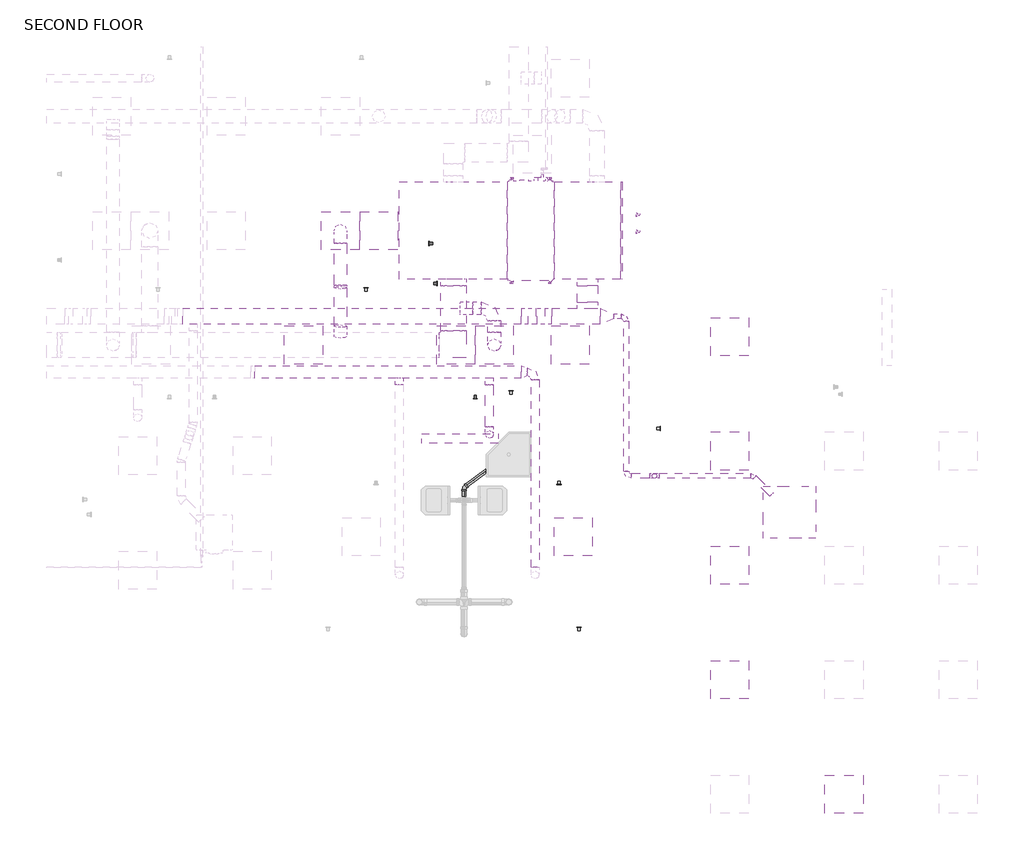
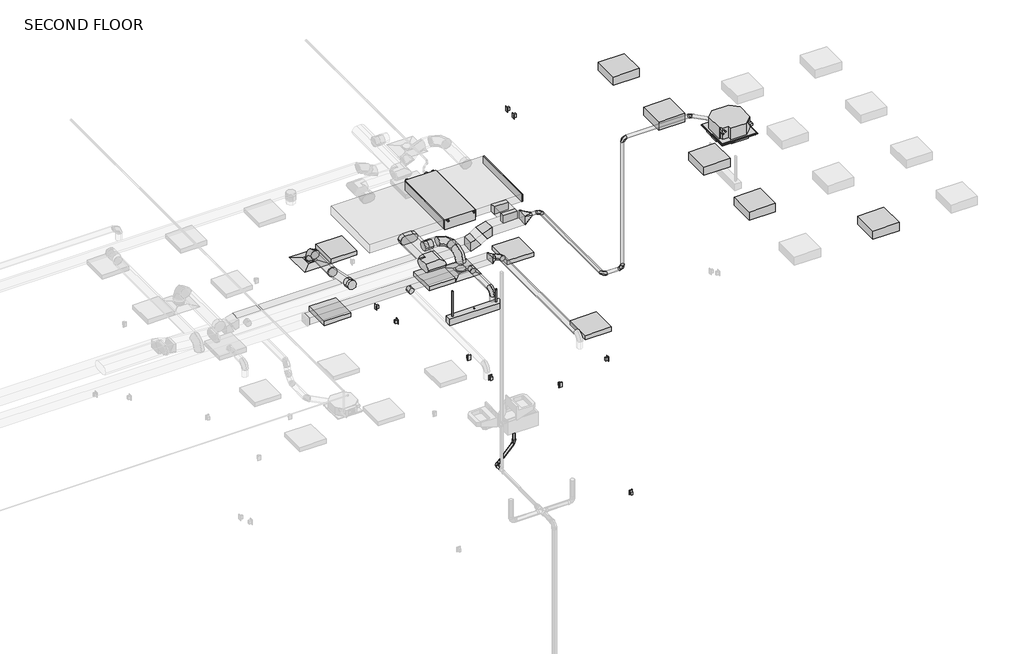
# One storey, part 5 of 12: 24 duct fittings, 22 duct segments, 11 light fixtures, 6 proxies, 6 switching devices, 3 pipe segments, 2 air terminals, 2 pipe fittings.
"""IFC4 building model written with IfcOpenShell, lengths in millimetres."""

from ifc_helpers import new_model, si_unit, point, frame, frame_2d, origin, place, context, project, spatial, polyline, circle_curve, trimmed, segment, composite_curve, outline, extrude, transform, mapped, element, save
from components import air_terminal_e9020785, mechanical_equipment_8a2286fb, mechanical_equipment_de7c3da1, duplex_receptacle_countertop_10251bba, oval_elbow_mitered_standard_57953c47, oval_tap_straight_standard_ffc37641, rectangular_elbow_radius_1_5_w_e6937f48, rectangular_endcap_standard_127bff01, rectangular_takeoff_standard_68f80ab3, rectangular_takeoff_standard_5ed12392, rectangular_to_round_transition_angle_45_degree_4c5d7f98, rectangular_to_round_transition_angle_45_degree_93651def, round_elbow_1_d_a253342a, round_elbow_1_d_c80420c1, round_elbow_1_d_aff85894, round_elbow_1_d_8c5a454f, round_elbow_1_d_b51427ba, round_takeoff_standard_8f6f248b, round_takeoff_standard_275da0e0, round_takeoff_standard_7fe2b2d5, suspended_fluorescent_strip_non_hosted_strip_light_1x4_120v_a5e6163e, troffer_corner_insert_2x2_3lamp_e67c7f8f, troffer_corner_insert_2x2_3lamp_high_profile_29e3a813, bend_pvc_sch_40_dwv_standard_1eaeee76, bend_pvc_sch_40_dwv_standard_be5bc2fd

model = new_model("IFC4")

# Units and contexts
model_context = context("Model", 3, world=origin())
ifc_project = project(units=[si_unit("LENGTHUNIT", "METRE", prefix="MILLI")], contexts=[model_context])

# Site, building, storey
site = spatial("IfcSite", under=ifc_project)
building = spatial("IfcBuilding", under=site)
storey = spatial("IfcBuildingStorey", under=building, Name="SECOND FLOOR", Elevation=34544.0)

# Air terminals
placement = place(None, origin())
air_terminal_shape = air_terminal_e9020785(model_context)
element("IfcAirTerminal", 1, ObjectType="Supply Diffuser - Rectangular Face Round Neck - Hosted : 24\"x24\" Face 8\" Neck - Hosted", at=placement, inside=storey, context=model_context, shape_type="MappedRepresentation", body=[
    mapped(air_terminal_shape, transform((8717.1232893, -751.4804995, 37287.2), x_axis=(-1.0, 0.0, 0.0), y_axis=(0.0, 1.0, 0.0), z_axis=(0.0, 0.0, -1.0))),
])
element("IfcAirTerminal", 2, ObjectType="Supply Diffuser - Rectangular Face Round Neck - Hosted : 24\"x24\" Face 8\" Neck - Hosted", at=placement, inside=storey, context=model_context, shape_type="MappedRepresentation", body=[
    mapped(air_terminal_shape, transform((11173.7795393, -2580.2804995, 37287.2), x_axis=(-1.0, 0.0, 0.0), y_axis=(0.0, 1.0, 0.0), z_axis=(0.0, 0.0, -1.0))),
])

# Proxies
mechanical_equipment_shape = mechanical_equipment_8a2286fb(model_context)
element("IfcBuildingElementProxy", 3, Name="PEFY-P-NMAU-E_Medium_Static_Ducted : PEFY-P54NMAU-E", ObjectType="PEFY-P-NMAU-E_Medium_Static_Ducted : PEFY-P54NMAU-E", at=placement, inside=storey, context=model_context, shape_type="MappedRepresentation", body=[
    mapped(mechanical_equipment_shape, transform((11814.3357893, -741.4682565, 37566.6), x_axis=(0.0, 1.0, 0.0), y_axis=(-1.0, 0.0, 0.0), z_axis=(0.0, 0.0, 1.0))),
])
mechanical_equipment_2_shape = mechanical_equipment_de7c3da1(model_context)
element("IfcBuildingElementProxy", 4, Name="PLFY-P-NBMU-E_4-way_33x33 : PLFY-P36NBMU-E", ObjectType="PLFY-P-NBMU-E_4-way_33x33 : PLFY-P36NBMU-E", at=placement, inside=storey, context=model_context, shape_type="MappedRepresentation", body=[
    mapped(mechanical_equipment_2_shape, transform((15640.3157152, -5255.0503148, 40741.6), x_axis=(1.0, 0.0, 0.0), y_axis=(0.0, 1.0, 0.0), z_axis=(0.0, 0.0, 1.0))),
])
duplex_receptacle_countertop_shape = duplex_receptacle_countertop_10251bba(model_context)
element("IfcBuildingElementProxy", 5, Name="Duplex Receptacle : GFCI", ObjectType="Duplex Receptacle : GFCI", at=placement, inside=storey, context=model_context, shape_type="MappedRepresentation", body=[
    mapped(duplex_receptacle_countertop_shape, transform((12532.6032078, -7095.1304995, 34086.8), x_axis=(-1.0, 0.0, 0.0), y_axis=(0.0, 0.0, 1.0), z_axis=(0.0, 1.0, 0.0))),
])
element("IfcBuildingElementProxy", 6, Name="Duplex Receptacle : Standard", ObjectType="Duplex Receptacle : Standard", at=placement, inside=storey, context=model_context, shape_type="MappedRepresentation", body=[
    mapped(duplex_receptacle_countertop_shape, transform((9126.9080833, -1665.8804995, 35001.2), x_axis=(-1.0, 0.0, 0.0), y_axis=(0.0, 0.0, 1.0), z_axis=(0.0, 1.0, 0.0))),
])
element("IfcBuildingElementProxy", 7, Name="Duplex Receptacle : Standard", ObjectType="Duplex Receptacle : Standard", at=placement, inside=storey, context=model_context, shape_type="MappedRepresentation", body=[
    mapped(duplex_receptacle_countertop_shape, transform((11443.1486524, -3313.7054995, 35001.2), x_axis=(-1.0, 0.0, 0.0), y_axis=(0.0, 0.0, 1.0), z_axis=(0.0, 1.0, 0.0))),
])
element("IfcBuildingElementProxy", 8, Name="Duplex Receptacle : Standard", ObjectType="Duplex Receptacle : Standard", at=placement, inside=storey, context=model_context, shape_type="MappedRepresentation", body=[
    mapped(duplex_receptacle_countertop_shape, transform((13828.0795393, -3914.6809044, 35001.2), x_axis=(0.0, 1.0, 0.0), y_axis=(0.0, 0.0, 1.0), z_axis=(1.0, 0.0, 0.0))),
])

# Duct fittings
oval_elbow_mitered_standard_shape = oval_elbow_mitered_standard_57953c47(model_context)
element("IfcDuctFitting", 9, ObjectType="Oval Elbow - Mitered : Standard", at=placement, inside=storey, context=model_context, shape_type="MappedRepresentation", body=[
    mapped(oval_elbow_mitered_standard_shape, transform((10522.5076643, -2580.2804995, 37711.1892428), x_axis=(1.0, 0.0, 0.0), y_axis=(0.0, 1.0, 0.0), z_axis=(0.0, 0.0, 1.0))),
])
oval_tap_straight_standard_shape = oval_tap_straight_standard_ffc37641(model_context)
element("IfcDuctFitting", 10, ObjectType="Oval Tap - Straight : Standard", at=placement, inside=storey, context=model_context, shape_type="MappedRepresentation", body=[
    mapped(oval_tap_straight_standard_shape, transform((10522.5076643, -1529.3554995, 37711.1892428), x_axis=(0.0, -1.0, 0.0), y_axis=(-1.0, 0.0, 0.0), z_axis=(0.0, 0.0, -1.0))),
])
rectangular_elbow_radius_1_5_w_shape = rectangular_elbow_radius_1_5_w_e6937f48(model_context)
element("IfcDuctFitting", 11, ObjectType="Rectangular Elbow - Radius : 1.5 W", at=placement, inside=storey, context=model_context, shape_type="MappedRepresentation", body=[
    mapped(rectangular_elbow_radius_1_5_w_shape, transform((11698.9780581, -2123.0804995, 37515.8), x_axis=(1.0, 0.0, 0.0), y_axis=(0.0, 0.0, 1.0), z_axis=(0.0, -1.0, 0.0))),
])
element("IfcDuctFitting", 12, ObjectType="Rectangular Elbow - Radius : 1.5 W", at=placement, inside=storey, context=model_context, shape_type="MappedRepresentation", body=[
    mapped(rectangular_elbow_radius_1_5_w_shape, transform((11999.3800654, -2123.0804995, 37726.14375), x_axis=(0.8191520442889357, 0.0, 0.5735764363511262), y_axis=(0.5735764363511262, 0.0, -0.8191520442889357), z_axis=(0.0, 1.0, 0.0))),
])
rectangular_endcap_standard_shape = rectangular_endcap_standard_127bff01(model_context)
element("IfcDuctFitting", 13, ObjectType="Rectangular Endcap : Standard", at=placement, inside=storey, context=model_context, shape_type="MappedRepresentation", body=[
    mapped(rectangular_endcap_standard_shape, transform((13198.6357893, -751.4804995, 37726.14375), x_axis=(1.0, 0.0, 0.0), y_axis=(0.0, 1.0, 0.0), z_axis=(0.0, 0.0, 1.0))),
])
rectangular_takeoff_standard_shape = rectangular_takeoff_standard_68f80ab3(model_context)
element("IfcDuctFitting", 14, ObjectType="Rectangular Takeoff : Standard", at=placement, inside=storey, context=model_context, shape_type="MappedRepresentation", body=[
    mapped(rectangular_takeoff_standard_shape, transform((12665.2357893, -1996.0804995, 37726.14375), x_axis=(0.0, 1.0, 0.0), y_axis=(1.0, 0.0, 0.0), z_axis=(0.0, 0.0, -1.0))),
])
rectangular_takeoff_standard_2_shape = rectangular_takeoff_standard_5ed12392(model_context)
element("IfcDuctFitting", 15, ObjectType="Rectangular Takeoff : Standard", at=placement, inside=storey, context=model_context, shape_type="MappedRepresentation", body=[
    mapped(rectangular_takeoff_standard_2_shape, transform((12665.2357893, -1529.3554995, 37726.14375), x_axis=(0.0, -1.0, 0.0), y_axis=(-1.0, 0.0, 0.0), z_axis=(0.0, 0.0, -1.0))),
])
rectangular_to_round_transition_angle_45_degree_shape = rectangular_to_round_transition_angle_45_degree_4c5d7f98(model_context)
element("IfcDuctFitting", 16, ObjectType="Rectangular to Round Transition - Angle : 45 Degree", at=placement, inside=storey, context=model_context, shape_type="MappedRepresentation", body=[
    mapped(rectangular_to_round_transition_angle_45_degree_shape, transform((11608.8480026, -3010.2706668, 37693.6), x_axis=(1.0, 0.0, 0.0), y_axis=(0.0, 1.0, 0.0), z_axis=(0.0, 0.0, 1.0))),
])
rectangular_to_round_transition_angle_45_degree_2_shape = rectangular_to_round_transition_angle_45_degree_93651def(model_context)
element("IfcDuctFitting", 17, ObjectType="Rectangular to Round Transition - Angle : 45 Degree", at=placement, inside=storey, context=model_context, shape_type="MappedRepresentation", body=[
    mapped(rectangular_to_round_transition_angle_45_degree_2_shape, transform((12871.0102837, -2123.0804995, 37726.14375), x_axis=(1.0, 0.0, 0.0), y_axis=(0.0, 1.0, 0.0), z_axis=(0.0, 0.0, 1.0))),
])
round_elbow_1_d_shape = round_elbow_1_d_a253342a(model_context)
element("IfcDuctFitting", 18, ObjectType="Round Elbow : 1 D", at=placement, inside=storey, context=model_context, shape_type="MappedRepresentation", body=[
    mapped(round_elbow_1_d_shape, transform((11173.7795393, -2580.2804995, 37712.65), x_axis=(0.0, 0.0, 1.0), y_axis=(0.0, 1.0, 0.0), z_axis=(-1.0, 0.0, 0.0))),
])
element("IfcDuctFitting", 19, ObjectType="Round Elbow : 1 D", at=placement, inside=storey, context=model_context, shape_type="MappedRepresentation", body=[
    mapped(round_elbow_1_d_shape, transform((8717.1232893, -751.4804995, 37547.2858674), x_axis=(0.0, 0.0, 1.0), y_axis=(0.0, -1.0, 0.0), z_axis=(1.0, 0.0, 0.0))),
])
element("IfcDuctFitting", 20, ObjectType="Round Elbow : 1 D", at=placement, inside=storey, context=model_context, shape_type="MappedRepresentation", body=[
    mapped(round_elbow_1_d_shape, transform((11173.7795393, -1991.3179995, 37712.65), x_axis=(0.0, 1.0, 0.0), y_axis=(-1.0, 0.0, 0.0), z_axis=(0.0, 0.0, 1.0))),
])
round_elbow_1_d_2_shape = round_elbow_1_d_c80420c1(model_context)
element("IfcDuctFitting", 21, ObjectType="Round Elbow : 1 D", at=placement, inside=storey, context=model_context, shape_type="MappedRepresentation", body=[
    mapped(round_elbow_1_d_2_shape, transform((11827.8295393, -3010.2706668, 37693.6), x_axis=(0.0, 1.0, 0.0), y_axis=(-1.0, 0.0, 0.0), z_axis=(0.0, 0.0, 1.0))),
])
element("IfcDuctFitting", 22, ObjectType="Round Elbow : 1 D", at=placement, inside=storey, context=model_context, shape_type="MappedRepresentation", body=[
    mapped(round_elbow_1_d_2_shape, transform((11097.8695952, -4010.3447967, 37693.6), x_axis=(0.0, 0.0, 1.0), y_axis=(0.0, 1.0, 0.0), z_axis=(-1.0, 0.0, 0.0))),
])
round_elbow_1_d_3_shape = round_elbow_1_d_aff85894(model_context)
element("IfcDuctFitting", 23, ObjectType="Round Elbow : 1 D", at=placement, inside=storey, context=model_context, shape_type="MappedRepresentation", body=[
    mapped(round_elbow_1_d_3_shape, transform((15311.918853, -4674.1149245, 40919.3007812), x_axis=(-0.707106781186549, 0.707106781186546, 0.0), y_axis=(-0.707106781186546, -0.707106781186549, 0.0), z_axis=(0.0, 0.0, 1.0))),
])
round_elbow_1_d_4_shape = round_elbow_1_d_8c5a454f(model_context)
element("IfcDuctFitting", 24, ObjectType="Round Elbow : 1 D", at=placement, inside=storey, context=model_context, shape_type="MappedRepresentation", body=[
    mapped(round_elbow_1_d_4_shape, transform((13284.3268912, -2123.0804995, 37726.14375), x_axis=(0.0, 1.0, 0.0), y_axis=(-1.0, 0.0, 0.0), z_axis=(0.0, 0.0, 1.0))),
])
element("IfcDuctFitting", 25, ObjectType="Round Elbow : 1 D", at=placement, inside=storey, context=model_context, shape_type="MappedRepresentation", body=[
    mapped(round_elbow_1_d_4_shape, transform((13736.710796, -4674.1149245, 40919.3007812), x_axis=(-1.0, 0.0, 0.0), y_axis=(0.0, 0.0, -1.0), z_axis=(0.0, -1.0, 0.0))),
])
element("IfcDuctFitting", 26, ObjectType="Round Elbow : 1 D", at=placement, inside=storey, context=model_context, shape_type="MappedRepresentation", body=[
    mapped(round_elbow_1_d_4_shape, transform((13736.710796, -4674.1149245, 37726.14375), x_axis=(0.0, 0.0, -1.0), y_axis=(-1.0, 0.0, 0.0), z_axis=(0.0, 1.0, 0.0))),
])
element("IfcDuctFitting", 27, ObjectType="Round Elbow : 1 D", at=placement, inside=storey, context=model_context, shape_type="MappedRepresentation", body=[
    mapped(round_elbow_1_d_4_shape, transform((13284.3268912, -4674.1149245, 37726.14375), x_axis=(0.0, -1.0, 0.0), y_axis=(1.0, 0.0, 0.0), z_axis=(0.0, 0.0, 1.0))),
])
round_elbow_1_d_5_shape = round_elbow_1_d_b51427ba(model_context)
element("IfcDuctFitting", 28, ObjectType="Round Elbow : 1 D", at=placement, inside=storey, context=model_context, shape_type="MappedRepresentation", body=[
    mapped(round_elbow_1_d_5_shape, transform((8717.1232893, -1644.9208818, 37547.2858674), x_axis=(0.0, -1.0, 0.0), y_axis=(0.0, 0.0, 1.0), z_axis=(-1.0, 0.0, 0.0))),
])
round_takeoff_standard_shape = round_takeoff_standard_8f6f248b(model_context)
element("IfcDuctFitting", 29, ObjectType="Round Takeoff : Standard", at=placement, inside=storey, context=model_context, shape_type="MappedRepresentation", body=[
    mapped(round_takeoff_standard_shape, transform((8717.1232893, -2378.315039, 37696.8596758), x_axis=(0.0, 0.9798298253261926, -0.1998337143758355), y_axis=(-1.0, 0.0, 0.0), z_axis=(0.0, 0.1998337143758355, 0.9798298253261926))),
])
round_takeoff_standard_2_shape = round_takeoff_standard_275da0e0(model_context)
element("IfcDuctFitting", 30, ObjectType="Round Takeoff : Standard", at=placement, inside=storey, context=model_context, shape_type="MappedRepresentation", body=[
    mapped(round_takeoff_standard_2_shape, transform((10725.7076643, -1991.3179995, 37712.65), x_axis=(1.0, 0.0, 0.0), y_axis=(0.0, -1.0, 0.0), z_axis=(0.0, 0.0, -1.0))),
])
round_takeoff_standard_3_shape = round_takeoff_standard_7fe2b2d5(model_context)
element("IfcDuctFitting", 31, ObjectType="Round Takeoff : Standard", at=placement, inside=storey, context=model_context, shape_type="MappedRepresentation", body=[
    mapped(round_takeoff_standard_3_shape, transform((9659.3045393, -3111.8706668, 37693.6), x_axis=(0.0, -1.0, 0.0), y_axis=(-1.0, 0.0, 0.0), z_axis=(0.0, 0.0, -1.0))),
])
element("IfcDuctFitting", 32, ObjectType="Round Takeoff : Standard", at=placement, inside=storey, context=model_context, shape_type="MappedRepresentation", body=[
    mapped(round_takeoff_standard_3_shape, transform((11097.8695952, -3111.8706668, 37693.6), x_axis=(0.0, -1.0, 0.0), y_axis=(-1.0, 0.0, 0.0), z_axis=(0.0, 0.0, -1.0))),
])

# Duct segments
element("IfcDuctSegment", 33, ObjectType="Mitered Elbows / Taps", at=placement, inside=storey, context=model_context, shape_type="SweptSolid", body=[
    extrude(outline(composite_curve([segment(trimmed(circle_curve(frame_2d((37711.1892428, 10420.9076643)), 101.6), [point((37812.7892428, 10420.9076643))], [point((37711.1892428, 10319.3076643))], False, "CARTESIAN"), True, "CONTINUOUS"), segment(trimmed(circle_curve(frame_2d((37711.1892428, 10420.9076643)), 101.6), [point((37711.1892428, 10319.3076643))], [point((37609.5892428, 10420.9076643))], False, "CARTESIAN"), True, "CONTINUOUS"), segment(polyline([(37609.5892428, 10420.9076643), (37609.5892428, 10624.1076643)]), True, "CONTINUOUS"), segment(trimmed(circle_curve(frame_2d((37711.1892428, 10624.1076643)), 101.6), [point((37609.5892428, 10624.1076643))], [point((37711.1892428, 10725.7076643))], False, "CARTESIAN"), True, "CONTINUOUS"), segment(trimmed(circle_curve(frame_2d((37711.1892428, 10624.1076643)), 101.6), [point((37711.1892428, 10725.7076643))], [point((37812.7892428, 10624.1076643))], False, "CARTESIAN"), True, "CONTINUOUS"), segment(polyline([(37812.7892428, 10624.1076643), (37812.7892428, 10420.9076643)]), True, "CONTINUOUS")], self_intersect=False)), frame((0.0, -2351.6804995, 0.0), z_axis=(0.0, 1.0, 0.0), x_axis=(0.0, 0.0, 1.0)), (0.0, 0.0, 1.0), 720.725),
])
element("IfcDuctSegment", 34, ObjectType="Mitered Elbows / Taps", at=placement, inside=storey, context=model_context, shape_type="SweptSolid", body=[
    extrude(outline(polyline([(7344.8230026, -3111.8706668), (7344.8230026, -2908.6706668), (11608.8480026, -2908.6706668), (11608.8480026, -3111.8706668), (7344.8230026, -3111.8706668)])), frame((0.0, 0.0, 37617.4), z_axis=(0.0, 0.0, 1.0), x_axis=(1.0, 0.0, 0.0)), (0.0, 0.0, 1.0), 152.4),
])
element("IfcDuctSegment", 35, ObjectType="Mitered Elbows / Taps", at=placement, inside=storey, context=model_context, shape_type="SweptSolid", body=[
    extrude(outline(polyline([(12500.1357893, -1630.9554995), (12830.3357893, -1630.9554995), (12830.3357893, -1894.4804995), (12500.1357893, -1894.4804995), (12500.1357893, -1630.9554995)])), frame((0.0, 0.0, 37637.24375), z_axis=(0.0, 0.0, 1.0), x_axis=(1.0, 0.0, 0.0)), (0.0, 0.0, 1.0), 177.8),
])
element("IfcDuctSegment", 36, ObjectType="Mitered Elbows / Tees", at=placement, inside=storey, context=model_context, shape_type="SweptSolid", body=[
    extrude(outline(polyline([(11385.7107893, 26.3945005), (11385.7107893, -1529.3554995), (9659.3045393, -1529.3554995), (9659.3045393, 26.3945005), (11385.7107893, 26.3945005)])), frame((0.0, 0.0, 37609.4625), z_axis=(0.0, 0.0, 1.0), x_axis=(1.0, 0.0, 0.0)), (0.0, 0.0, 1.0), 206.375),
])
element("IfcDuctSegment", 37, ObjectType="Mitered Elbows / Tees", at=placement, inside=storey, context=model_context, shape_type="SweptSolid", body=[
    extrude(outline(polyline([(12131.8357893, -1529.3554995), (12131.8357893, 26.3945005), (13198.6357893, 26.3945005), (13198.6357893, -1529.3554995), (12131.8357893, -1529.3554995)])), frame((0.0, 0.0, 37636.45), z_axis=(0.0, 0.0, 1.0), x_axis=(1.0, 0.0, 0.0)), (0.0, 0.0, 1.0), 179.3875),
])
element("IfcDuctSegment", 38, ObjectType="Radius Elbows / Taps", at=placement, inside=storey, context=model_context, shape_type="SweptSolid", body=[
    extrude(outline(polyline([(6192.5974376, -2250.0804995), (6192.5974376, -1996.0804995), (11602.8749873, -1996.0804995), (11602.8749873, -2250.0804995), (6192.5974376, -2250.0804995)])), frame((0.0, 0.0, 37414.2), z_axis=(0.0, 0.0, 1.0), x_axis=(1.0, 0.0, 0.0)), (0.0, 0.0, 1.0), 203.2),
])
element("IfcDuctSegment", 39, ObjectType="Radius Elbows / Taps", at=placement, inside=storey, context=model_context, shape_type="SweptSolid", body=[
    extrude(outline(polyline([(0.0, -254.0), (0.0, 0.0), (174.5169952, 0.0), (174.5169952, -254.0), (0.0, -254.0)])), frame((11835.976451, -1996.0804995, 37487.6966092), z_axis=(-0.5735764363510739, 0.0, 0.8191520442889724), x_axis=(0.8191520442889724, 0.0, 0.5735764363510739)), (0.0, 0.0, 1.0), 203.2),
])
element("IfcDuctSegment", 40, ObjectType="Radius Elbows / Taps", at=placement, inside=storey, context=model_context, shape_type="SweptSolid", body=[
    extrude(outline(polyline([(12095.4831363, -2250.0804995), (12095.4831363, -1996.0804995), (12871.0102837, -1996.0804995), (12871.0102837, -2250.0804995), (12095.4831363, -2250.0804995)])), frame((0.0, 0.0, 37624.54375), z_axis=(0.0, 0.0, 1.0), x_axis=(1.0, 0.0, 0.0)), (0.0, 0.0, 1.0), 203.2),
])
element("IfcDuctSegment", 41, ObjectType="Taps / Short Radius", at=placement, inside=storey, context=model_context, shape_type="SweptSolid", body=[
    extrude(outline(composite_curve([segment(trimmed(circle_curve(frame_2d((-1991.3179995, 37712.65)), 101.6), [point((-1889.7179995, 37712.65))], [point((-1991.3179995, 37611.05))], False, "CARTESIAN"), True, "CONTINUOUS"), segment(trimmed(circle_curve(frame_2d((-1991.3179995, 37712.65)), 101.6), [point((-1991.3179995, 37611.05))], [point((-2092.9179995, 37712.65))], False, "CARTESIAN"), True, "CONTINUOUS"), segment(trimmed(circle_curve(frame_2d((-1991.3179995, 37712.65)), 101.6), [point((-2092.9179995, 37712.65))], [point((-1991.3179995, 37814.25))], False, "CARTESIAN"), True, "CONTINUOUS"), segment(trimmed(circle_curve(frame_2d((-1991.3179995, 37712.65)), 101.6), [point((-1991.3179995, 37814.25))], [point((-1889.7179995, 37712.65))], False, "CARTESIAN"), True, "CONTINUOUS")], self_intersect=False)), frame((10827.3076643, 0.0, 0.0), z_axis=(1.0, 0.0, 0.0), x_axis=(0.0, 1.0, 0.0)), (0.0, 0.0, 1.0), 143.271875),
])
element("IfcDuctSegment", 42, ObjectType="Taps / Short Radius", at=placement, inside=storey, context=model_context, shape_type="SweptSolid", body=[
    extrude(outline(composite_curve([segment(trimmed(circle_curve(frame_2d((37712.65, 11173.7795393)), 101.6), [point((37712.65, 11275.3795393))], [point((37814.25, 11173.7795393))], False, "CARTESIAN"), True, "CONTINUOUS"), segment(trimmed(circle_curve(frame_2d((37712.65, 11173.7795393)), 101.6), [point((37814.25, 11173.7795393))], [point((37712.65, 11072.1795393))], False, "CARTESIAN"), True, "CONTINUOUS"), segment(trimmed(circle_curve(frame_2d((37712.65, 11173.7795393)), 101.6), [point((37712.65, 11072.1795393))], [point((37611.05, 11173.7795393))], False, "CARTESIAN"), True, "CONTINUOUS"), segment(trimmed(circle_curve(frame_2d((37712.65, 11173.7795393)), 101.6), [point((37611.05, 11173.7795393))], [point((37712.65, 11275.3795393))], False, "CARTESIAN"), True, "CONTINUOUS")], self_intersect=False)), frame((0.0, -2377.0804995, 0.0), z_axis=(0.0, 1.0, 0.0), x_axis=(0.0, 0.0, 1.0)), (0.0, 0.0, 1.0), 182.5625),
])
element("IfcDuctSegment", 43, ObjectType="Taps / Short Radius", at=placement, inside=storey, context=model_context, shape_type="SweptSolid", body=[
    extrude(outline(composite_curve([segment(trimmed(circle_curve(frame_2d((11173.7795393, -2580.2804995)), 101.6), [point((11072.1795393, -2580.2804995))], [point((11173.7795393, -2478.6804995))], False, "CARTESIAN"), True, "CONTINUOUS"), segment(trimmed(circle_curve(frame_2d((11173.7795393, -2580.2804995)), 101.6), [point((11173.7795393, -2478.6804995))], [point((11275.3795393, -2580.2804995))], False, "CARTESIAN"), True, "CONTINUOUS"), segment(trimmed(circle_curve(frame_2d((11173.7795393, -2580.2804995)), 101.6), [point((11275.3795393, -2580.2804995))], [point((11173.7795393, -2681.8804995))], False, "CARTESIAN"), True, "CONTINUOUS"), segment(trimmed(circle_curve(frame_2d((11173.7795393, -2580.2804995)), 101.6), [point((11173.7795393, -2681.8804995))], [point((11072.1795393, -2580.2804995))], False, "CARTESIAN"), True, "CONTINUOUS")], self_intersect=False)), frame((0.0, 0.0, 37341.175), z_axis=(0.0, 0.0, 1.0), x_axis=(1.0, 0.0, 0.0)), (0.0, 0.0, 1.0), 168.275),
])
element("IfcDuctSegment", 44, ObjectType="Taps / Short Radius", at=placement, inside=storey, context=model_context, shape_type="SweptSolid", body=[
    extrude(outline(composite_curve([segment(trimmed(circle_curve(frame_2d((37693.6, 11827.8295393)), 63.5), [point((37693.6, 11891.3295393))], [point((37757.1, 11827.8295393))], False, "CARTESIAN"), True, "CONTINUOUS"), segment(trimmed(circle_curve(frame_2d((37693.6, 11827.8295393)), 63.5), [point((37757.1, 11827.8295393))], [point((37693.6, 11764.3295393))], False, "CARTESIAN"), True, "CONTINUOUS"), segment(trimmed(circle_curve(frame_2d((37693.6, 11827.8295393)), 63.5), [point((37693.6, 11764.3295393))], [point((37630.1, 11827.8295393))], False, "CARTESIAN"), True, "CONTINUOUS"), segment(trimmed(circle_curve(frame_2d((37693.6, 11827.8295393)), 63.5), [point((37630.1, 11827.8295393))], [point((37693.6, 11891.3295393))], False, "CARTESIAN"), True, "CONTINUOUS")], self_intersect=False)), frame((0.0, -6129.9304995, 0.0), z_axis=(0.0, 1.0, 0.0), x_axis=(0.0, 0.0, 1.0)), (0.0, 0.0, 1.0), 2992.6598327),
])
element("IfcDuctSegment", 45, ObjectType="Taps / Short Radius", at=placement, inside=storey, context=model_context, shape_type="SweptSolid", body=[
    extrude(outline(composite_curve([segment(trimmed(circle_curve(frame_2d((11097.8695952, -4010.3447967)), 63.5), [point((11034.3695952, -4010.3447967))], [point((11097.8695952, -3946.8447967))], False, "CARTESIAN"), True, "CONTINUOUS"), segment(trimmed(circle_curve(frame_2d((11097.8695952, -4010.3447967)), 63.5), [point((11097.8695952, -3946.8447967))], [point((11161.3695952, -4010.3447967))], False, "CARTESIAN"), True, "CONTINUOUS"), segment(trimmed(circle_curve(frame_2d((11097.8695952, -4010.3447967)), 63.5), [point((11161.3695952, -4010.3447967))], [point((11097.8695952, -4073.8447967))], False, "CARTESIAN"), True, "CONTINUOUS"), segment(trimmed(circle_curve(frame_2d((11097.8695952, -4010.3447967)), 63.5), [point((11097.8695952, -4073.8447967))], [point((11034.3695952, -4010.3447967))], False, "CARTESIAN"), True, "CONTINUOUS")], self_intersect=False)), frame((0.0, 0.0, 37388.8), z_axis=(0.0, 0.0, 1.0), x_axis=(1.0, 0.0, 0.0)), (0.0, 0.0, 1.0), 177.8),
])
element("IfcDuctSegment", 46, ObjectType="Taps / Short Radius", at=placement, inside=storey, context=model_context, shape_type="SweptSolid", body=[
    extrude(outline(composite_curve([segment(trimmed(circle_curve(frame_2d((37693.6, 11097.8695952)), 63.5), [point((37693.6, 11161.3695952))], [point((37757.1, 11097.8695952))], False, "CARTESIAN"), True, "CONTINUOUS"), segment(trimmed(circle_curve(frame_2d((37693.6, 11097.8695952)), 63.5), [point((37757.1, 11097.8695952))], [point((37693.6, 11034.3695952))], False, "CARTESIAN"), True, "CONTINUOUS"), segment(trimmed(circle_curve(frame_2d((37693.6, 11097.8695952)), 63.5), [point((37693.6, 11034.3695952))], [point((37630.1, 11097.8695952))], False, "CARTESIAN"), True, "CONTINUOUS"), segment(trimmed(circle_curve(frame_2d((37693.6, 11097.8695952)), 63.5), [point((37630.1, 11097.8695952))], [point((37693.6, 11161.3695952))], False, "CARTESIAN"), True, "CONTINUOUS")], self_intersect=False)), frame((0.0, -3883.3447967, 0.0), z_axis=(0.0, 1.0, 0.0), x_axis=(0.0, 0.0, 1.0)), (0.0, 0.0, 1.0), 669.8741299),
])
element("IfcDuctSegment", 47, ObjectType="Taps / Short Radius", at=placement, inside=storey, context=model_context, shape_type="SweptSolid", body=[
    extrude(outline(composite_curve([segment(trimmed(circle_curve(frame_2d((0.0, 39.5882813)), 39.5882812), [point((39.5882812, 39.5882813))], [point((0.0, 0.0))], False, "CARTESIAN"), True, "CONTINUOUS"), segment(trimmed(circle_curve(frame_2d((0.0, 39.5882813)), 39.5882813), [point((0.0, 0.0))], [point((-39.5882812, 39.5882813))], False, "CARTESIAN"), True, "CONTINUOUS"), segment(trimmed(circle_curve(frame_2d((0.0, 39.5882813)), 39.5882812), [point((-39.5882812, 39.5882813))], [point((0.0, 79.1765625))], False, "CARTESIAN"), True, "CONTINUOUS"), segment(trimmed(circle_curve(frame_2d((0.0, 39.5882813)), 39.5882813), [point((0.0, 79.1765625))], [point((39.5882812, 39.5882813))], False, "CARTESIAN"), True, "CONTINUOUS")], self_intersect=False)), frame((15609.0646653, -4971.2607369, 40958.8890625), z_axis=(-0.7071067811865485, 0.7071067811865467, 0.0), x_axis=(0.7071067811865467, 0.7071067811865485, 0.0)), (0.0, 0.0, 1.0), 387.4316318),
])
element("IfcDuctSegment", 48, ObjectType="Taps / Short Radius", at=placement, inside=storey, context=model_context, shape_type="SweptSolid", body=[
    extrude(outline(composite_curve([segment(trimmed(circle_curve(frame_2d((-4674.1149245, 40919.3007812)), 39.5882812), [point((-4634.5266433, 40919.3007812))], [point((-4674.1149245, 40879.7125))], False, "CARTESIAN"), True, "CONTINUOUS"), segment(trimmed(circle_curve(frame_2d((-4674.1149245, 40919.3007812)), 39.5882813), [point((-4674.1149245, 40879.7125))], [point((-4713.7032058, 40919.3007812))], False, "CARTESIAN"), True, "CONTINUOUS"), segment(trimmed(circle_curve(frame_2d((-4674.1149245, 40919.3007812)), 39.5882813), [point((-4713.7032058, 40919.3007812))], [point((-4674.1149245, 40958.8890625))], False, "CARTESIAN"), True, "CONTINUOUS"), segment(trimmed(circle_curve(frame_2d((-4674.1149245, 40919.3007812)), 39.5882813), [point((-4674.1149245, 40958.8890625))], [point((-4634.5266433, 40919.3007812))], False, "CARTESIAN"), True, "CONTINUOUS")], self_intersect=False)), frame((13815.8873585, 0.0, 0.0), z_axis=(1.0, 0.0, 0.0), x_axis=(0.0, 1.0, 0.0)), (0.0, 0.0, 1.0), 1463.2354885),
])
element("IfcDuctSegment", 49, ObjectType="Taps / Short Radius", at=placement, inside=storey, context=model_context, shape_type="SweptSolid", body=[
    extrude(outline(composite_curve([segment(trimmed(circle_curve(frame_2d((37726.14375, 13284.3268912)), 39.5882813), [point((37726.14375, 13244.73861))], [point((37686.5554688, 13284.3268912))], False, "CARTESIAN"), True, "CONTINUOUS"), segment(trimmed(circle_curve(frame_2d((37726.14375, 13284.3268912)), 39.5882813), [point((37686.5554688, 13284.3268912))], [point((37726.14375, 13323.9151725))], False, "CARTESIAN"), True, "CONTINUOUS"), segment(trimmed(circle_curve(frame_2d((37726.14375, 13284.3268912)), 39.5882812), [point((37726.14375, 13323.9151725))], [point((37765.7320313, 13284.3268912))], False, "CARTESIAN"), True, "CONTINUOUS"), segment(trimmed(circle_curve(frame_2d((37726.14375, 13284.3268912)), 39.5882813), [point((37765.7320313, 13284.3268912))], [point((37726.14375, 13244.73861))], False, "CARTESIAN"), True, "CONTINUOUS")], self_intersect=False)), frame((0.0, -4594.938362, 0.0), z_axis=(0.0, 1.0, 0.0), x_axis=(0.0, 0.0, 1.0)), (0.0, 0.0, 1.0), 2392.6813001),
])
element("IfcDuctSegment", 50, ObjectType="Taps / Short Radius", at=placement, inside=storey, context=model_context, shape_type="SweptSolid", body=[
    extrude(outline(composite_curve([segment(trimmed(circle_curve(frame_2d((-2123.0804995, 37726.14375)), 39.5882813), [point((-2162.6687807, 37726.14375))], [point((-2123.0804995, 37765.7320313))], False, "CARTESIAN"), True, "CONTINUOUS"), segment(trimmed(circle_curve(frame_2d((-2123.0804995, 37726.14375)), 39.5882813), [point((-2123.0804995, 37765.7320313))], [point((-2083.4922182, 37726.14375))], False, "CARTESIAN"), True, "CONTINUOUS"), segment(trimmed(circle_curve(frame_2d((-2123.0804995, 37726.14375)), 39.5882813), [point((-2083.4922182, 37726.14375))], [point((-2123.0804995, 37686.5554688))], False, "CARTESIAN"), True, "CONTINUOUS"), segment(trimmed(circle_curve(frame_2d((-2123.0804995, 37726.14375)), 39.5882813), [point((-2123.0804995, 37686.5554688))], [point((-2162.6687807, 37726.14375))], False, "CARTESIAN"), True, "CONTINUOUS")], self_intersect=False)), frame((13082.0408406, 0.0, 0.0), z_axis=(1.0, 0.0, 0.0), x_axis=(0.0, 1.0, 0.0)), (0.0, 0.0, 1.0), 123.1094881),
])
element("IfcDuctSegment", 51, ObjectType="Taps / Short Radius", at=placement, inside=storey, context=model_context, shape_type="SweptSolid", body=[
    extrude(outline(composite_curve([segment(trimmed(circle_curve(frame_2d((37547.2858674, 8717.1232893)), 101.6), [point((37547.2858674, 8615.5232893))], [point((37445.6858674, 8717.1232893))], False, "CARTESIAN"), True, "CONTINUOUS"), segment(trimmed(circle_curve(frame_2d((37547.2858674, 8717.1232893)), 101.6), [point((37445.6858674, 8717.1232893))], [point((37547.2858674, 8818.7232893))], False, "CARTESIAN"), True, "CONTINUOUS"), segment(trimmed(circle_curve(frame_2d((37547.2858674, 8717.1232893)), 101.6), [point((37547.2858674, 8818.7232893))], [point((37648.8858674, 8717.1232893))], False, "CARTESIAN"), True, "CONTINUOUS"), segment(trimmed(circle_curve(frame_2d((37547.2858674, 8717.1232893)), 101.6), [point((37648.8858674, 8717.1232893))], [point((37547.2858674, 8615.5232893))], False, "CARTESIAN"), True, "CONTINUOUS")], self_intersect=False)), frame((0.0, -1624.4109318, 0.0), z_axis=(0.0, 1.0, 0.0), x_axis=(0.0, 0.0, 1.0)), (0.0, 0.0, 1.0), 669.7304323),
])
element("IfcDuctSegment", 52, ObjectType="Taps / Short Radius", at=placement, inside=storey, context=model_context, shape_type="SweptSolid", body=[
    extrude(outline(composite_curve([segment(trimmed(circle_curve(frame_2d((0.0, -101.6)), 101.6), [point((101.6, -101.6))], [point((0.0, -203.2))], False, "CARTESIAN"), True, "CONTINUOUS"), segment(trimmed(circle_curve(frame_2d((0.0, -101.6)), 101.6), [point((0.0, -203.2))], [point((-101.6, -101.6))], False, "CARTESIAN"), True, "CONTINUOUS"), segment(trimmed(circle_curve(frame_2d((0.0, -101.6)), 101.6), [point((-101.6, -101.6))], [point((0.0, 0.0))], False, "CARTESIAN"), True, "CONTINUOUS"), segment(trimmed(circle_curve(frame_2d((0.0, -101.6)), 101.6), [point((0.0, 0.0))], [point((101.6, -101.6))], False, "CARTESIAN"), True, "CONTINUOUS")], self_intersect=False)), frame((8717.1232893, -1644.7140371, 37650.9351572), z_axis=(0.0, -0.9798298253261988, 0.19983371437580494), x_axis=(1.0, 0.0, 0.0)), (0.0, 0.0, 1.0), 626.1642708),
])
element("IfcDuctSegment", 53, ObjectType="Taps / Short Radius", at=placement, inside=storey, context=model_context, shape_type="SweptSolid", body=[
    extrude(outline(composite_curve([segment(trimmed(circle_curve(frame_2d((-4674.1149245, 37726.14375)), 39.5882813), [point((-4634.5266433, 37726.14375))], [point((-4674.1149245, 37686.5554688))], False, "CARTESIAN"), True, "CONTINUOUS"), segment(trimmed(circle_curve(frame_2d((-4674.1149245, 37726.14375)), 39.5882813), [point((-4674.1149245, 37686.5554688))], [point((-4713.7032058, 37726.14375))], False, "CARTESIAN"), True, "CONTINUOUS"), segment(trimmed(circle_curve(frame_2d((-4674.1149245, 37726.14375)), 39.5882813), [point((-4713.7032058, 37726.14375))], [point((-4674.1149245, 37765.7320313))], False, "CARTESIAN"), True, "CONTINUOUS"), segment(trimmed(circle_curve(frame_2d((-4674.1149245, 37726.14375)), 39.5882813), [point((-4674.1149245, 37765.7320313))], [point((-4634.5266433, 37726.14375))], False, "CARTESIAN"), True, "CONTINUOUS")], self_intersect=False)), frame((13363.5034537, 0.0, 0.0), z_axis=(1.0, 0.0, 0.0), x_axis=(0.0, 1.0, 0.0)), (0.0, 0.0, 1.0), 294.0307797),
])
element("IfcDuctSegment", 54, ObjectType="Taps / Short Radius", at=placement, inside=storey, context=model_context, shape_type="SweptSolid", body=[
    extrude(outline(composite_curve([segment(trimmed(circle_curve(frame_2d((13736.710796, -4674.1149245)), 39.5882813), [point((13736.710796, -4634.5266433))], [point((13776.2990772, -4674.1149245))], False, "CARTESIAN"), True, "CONTINUOUS"), segment(trimmed(circle_curve(frame_2d((13736.710796, -4674.1149245)), 39.5882813), [point((13776.2990772, -4674.1149245))], [point((13736.710796, -4713.7032058))], False, "CARTESIAN"), True, "CONTINUOUS"), segment(trimmed(circle_curve(frame_2d((13736.710796, -4674.1149245)), 39.5882813), [point((13736.710796, -4713.7032058))], [point((13697.1225147, -4674.1149245))], False, "CARTESIAN"), True, "CONTINUOUS"), segment(trimmed(circle_curve(frame_2d((13736.710796, -4674.1149245)), 39.5882813), [point((13697.1225147, -4674.1149245))], [point((13736.710796, -4634.5266433))], False, "CARTESIAN"), True, "CONTINUOUS")], self_intersect=False)), frame((0.0, 0.0, 37805.3203125), z_axis=(0.0, 0.0, 1.0), x_axis=(1.0, 0.0, 0.0)), (0.0, 0.0, 1.0), 3034.8039062),
])

# Light fixtures
suspended_fluorescent_strip_non_hosted_strip_light_1x4_120v_shape = suspended_fluorescent_strip_non_hosted_strip_light_1x4_120v_a5e6163e(model_context)
element("IfcLightFixture", 55, ObjectType="Suspended Fluorescent Strip - Non-Hosted : Strip Light 1x4 - 120V Normal", at=placement, inside=storey, context=model_context, shape_type="MappedRepresentation", body=[
    mapped(suspended_fluorescent_strip_non_hosted_strip_light_1x4_120v_shape, transform((10626.0920393, -4075.7054995, 37287.2), x_axis=(1.0, 0.0, 0.0), y_axis=(0.0, 1.0, 0.0), z_axis=(0.0, 0.0, 1.0))),
])
troffer_corner_insert_2x2_3lamp_shape = troffer_corner_insert_2x2_3lamp_e67c7f8f(model_context)
element("IfcLightFixture", 56, ObjectType="Troffer Corner Insert : 2x2 3Lamp", at=placement, inside=storey, context=model_context, shape_type="MappedRepresentation", body=[
    mapped(troffer_corner_insert_2x2_3lamp_shape, transform((8125.7795393, -2580.2804995, 34848.8), x_axis=(1.0, 0.0, 0.0), y_axis=(0.0, 1.0, 0.0), z_axis=(0.0, 0.0, 1.0))),
])
element("IfcLightFixture", 57, ObjectType="Troffer Corner Insert : 2x2 3Lamp", at=placement, inside=storey, context=model_context, shape_type="MappedRepresentation", body=[
    mapped(troffer_corner_insert_2x2_3lamp_shape, transform((10564.1795393, -2580.2804995, 34848.8), x_axis=(1.0, 0.0, 0.0), y_axis=(0.0, 1.0, 0.0), z_axis=(0.0, 0.0, 1.0))),
])
element("IfcLightFixture", 58, ObjectType="Troffer Corner Insert : 2x2 3Lamp", at=placement, inside=storey, context=model_context, shape_type="MappedRepresentation", body=[
    mapped(troffer_corner_insert_2x2_3lamp_shape, transform((12392.9795393, -2580.2804995, 34848.8), x_axis=(1.0, 0.0, 0.0), y_axis=(0.0, 1.0, 0.0), z_axis=(0.0, 0.0, 1.0))),
])
element("IfcLightFixture", 59, ObjectType="Troffer Corner Insert : 2x2 3Lamp", at=placement, inside=storey, context=model_context, shape_type="MappedRepresentation", body=[
    mapped(troffer_corner_insert_2x2_3lamp_shape, transform((12437.4295393, -5647.3304995, 34848.8), x_axis=(1.0, 0.0, 0.0), y_axis=(0.0, 1.0, 0.0), z_axis=(0.0, 0.0, 1.0))),
])
element("IfcLightFixture", 60, ObjectType="Troffer Corner Insert : 2x2 3Lamp", at=placement, inside=storey, context=model_context, shape_type="MappedRepresentation", body=[
    mapped(troffer_corner_insert_2x2_3lamp_shape, transform((9326.7232893, -751.4804995, 34848.8), x_axis=(1.0, 0.0, 0.0), y_axis=(0.0, 1.0, 0.0), z_axis=(0.0, 0.0, 1.0))),
])
troffer_corner_insert_2x2_3lamp_high_profile_shape = troffer_corner_insert_2x2_3lamp_high_profile_29e3a813(model_context)
element("IfcLightFixture", 61, ObjectType="Troffer Corner Insert : 2x2 3Lamp High Profile", at=placement, inside=storey, context=model_context, shape_type="MappedRepresentation", body=[
    mapped(troffer_corner_insert_2x2_3lamp_high_profile_shape, transform((14938.3445338, -6104.5304995, 38303.2), x_axis=(1.0, 0.0, 0.0), y_axis=(0.0, 1.0, 0.0), z_axis=(0.0, 0.0, 1.0))),
])
element("IfcLightFixture", 62, ObjectType="Troffer Corner Insert : 2x2 3Lamp High Profile", at=placement, inside=storey, context=model_context, shape_type="MappedRepresentation", body=[
    mapped(troffer_corner_insert_2x2_3lamp_high_profile_shape, transform((14938.3445338, -7933.3304995, 38303.2), x_axis=(1.0, 0.0, 0.0), y_axis=(0.0, 1.0, 0.0), z_axis=(0.0, 0.0, 1.0))),
])
element("IfcLightFixture", 63, ObjectType="Troffer Corner Insert : 2x2 3Lamp High Profile", at=placement, inside=storey, context=model_context, shape_type="MappedRepresentation", body=[
    mapped(troffer_corner_insert_2x2_3lamp_high_profile_shape, transform((16767.1445338, -9762.1304995, 38303.2), x_axis=(1.0, 0.0, 0.0), y_axis=(0.0, 1.0, 0.0), z_axis=(0.0, 0.0, 1.0))),
])
element("IfcLightFixture", 64, ObjectType="Troffer Corner Insert : 2x2 3Lamp High Profile", at=placement, inside=storey, context=model_context, shape_type="MappedRepresentation", body=[
    mapped(troffer_corner_insert_2x2_3lamp_high_profile_shape, transform((14938.3445338, -4275.7304995, 38303.2), x_axis=(1.0, 0.0, 0.0), y_axis=(0.0, 1.0, 0.0), z_axis=(0.0, 0.0, 1.0))),
])
element("IfcLightFixture", 65, ObjectType="Troffer Corner Insert : 2x2 3Lamp High Profile", at=placement, inside=storey, context=model_context, shape_type="MappedRepresentation", body=[
    mapped(troffer_corner_insert_2x2_3lamp_high_profile_shape, transform((14938.3445338, -2446.9304995, 38303.2), x_axis=(1.0, 0.0, 0.0), y_axis=(0.0, 1.0, 0.0), z_axis=(0.0, 0.0, 1.0))),
])

# Pipe fittings
bend_pvc_sch_40_dwv_standard_shape = bend_pvc_sch_40_dwv_standard_1eaeee76(model_context)
element("IfcPipeFitting", 66, ObjectType="Bend - PVC - Sch 40 - DWV : Standard", at=placement, inside=storey, context=model_context, shape_type="MappedRepresentation", body=[
    mapped(bend_pvc_sch_40_dwv_standard_shape, transform((11405.5049299, -4329.7054995, 34035.20625), x_axis=(0.0, 0.0, -1.0), y_axis=(-0.8040613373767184, -0.5945463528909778, 0.0), z_axis=(-0.5945463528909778, 0.8040613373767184, 0.0))),
])
bend_pvc_sch_40_dwv_standard_2_shape = bend_pvc_sch_40_dwv_standard_be5bc2fd(model_context)
element("IfcPipeFitting", 67, ObjectType="Bend - PVC - Sch 40 - DWV : Standard", at=placement, inside=storey, context=model_context, shape_type="MappedRepresentation", body=[
    mapped(bend_pvc_sch_40_dwv_standard_2_shape, transform((10692.7422346, -4856.7429794, 34035.20625), x_axis=(-0.8040613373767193, -0.5945463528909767, 0.0), y_axis=(0.5945463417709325, -0.8040613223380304, -0.00019340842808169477), z_axis=(0.00011499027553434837, -0.0001555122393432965, 0.99999998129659))),
])

# Pipe segments
element("IfcPipeSegment", 68, ObjectType="PVC - DWV", at=placement, inside=storey, context=model_context, shape_type="SweptSolid", body=[
    extrude(outline(composite_curve([segment(trimmed(circle_curve(frame_2d((0.0, 30.1625)), 30.1625), [point((0.0, 60.325))], [point((30.1625001, 30.1625))], False, "CARTESIAN"), True, "CONTINUOUS"), segment(trimmed(circle_curve(frame_2d((0.0, 30.1625)), 30.1625), [point((30.1625001, 30.1625))], [point((0.0, 0.0))], False, "CARTESIAN"), True, "CONTINUOUS"), segment(trimmed(circle_curve(frame_2d((0.0, 30.1625)), 30.1625), [point((0.0, 0.0))], [point((-30.1625, 30.1625))], False, "CARTESIAN"), True, "CONTINUOUS"), segment(trimmed(circle_curve(frame_2d((0.0, 30.1625)), 30.1625), [point((-30.1625, 30.1625))], [point((0.0, 60.325))], False, "CARTESIAN"), True, "CONTINUOUS")], self_intersect=False)), frame((10662.5797346, -5009.1429794, 34035.1825499), z_axis=(0.0, 0.9999999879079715, 0.00015551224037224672), x_axis=(0.0, -0.00015551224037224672, 0.9999999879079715)), (0.0, 0.0, 1.0), 99.9998018),
])
element("IfcPipeSegment", 69, ObjectType="PVC - DWV", at=placement, inside=storey, context=model_context, shape_type="SweptSolid", body=[
    extrude(outline(composite_curve([segment(trimmed(circle_curve(frame_2d((0.0, -30.1625)), 30.1625), [point((-30.1625, -30.1625))], [point((0.0, 0.0))], False, "CARTESIAN"), True, "CONTINUOUS"), segment(trimmed(circle_curve(frame_2d((0.0, -30.1625)), 30.1625), [point((0.0, 0.0))], [point((30.1625, -30.1625))], False, "CARTESIAN"), True, "CONTINUOUS"), segment(trimmed(circle_curve(frame_2d((0.0, -30.1625)), 30.1625), [point((30.1625, -30.1625))], [point((0.0, -60.325))], False, "CARTESIAN"), True, "CONTINUOUS"), segment(trimmed(circle_curve(frame_2d((0.0, -30.1625)), 30.1625), [point((0.0, -60.325))], [point((-30.1625, -30.1625))], False, "CARTESIAN"), True, "CONTINUOUS")], self_intersect=False)), frame((10734.8752095, -4825.5886316, 34005.04375), z_axis=(0.8040613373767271, 0.594546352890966, 0.0), x_axis=(0.594546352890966, -0.8040613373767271, 0.0)), (0.0, 0.0, 1.0), 756.2527376),
])
element("IfcPipeSegment", 70, ObjectType="PVC - DWV", at=placement, inside=storey, context=model_context, shape_type="SweptSolid", body=[
    extrude(outline(composite_curve([segment(trimmed(circle_curve(frame_2d((11405.5049299, -4329.7054995)), 30.1625), [point((11435.6674299, -4329.7054995))], [point((11405.5049299, -4359.8679995))], False, "CARTESIAN"), True, "CONTINUOUS"), segment(trimmed(circle_curve(frame_2d((11405.5049299, -4329.7054995)), 30.1625), [point((11405.5049299, -4359.8679995))], [point((11375.3424299, -4329.7054995))], False, "CARTESIAN"), True, "CONTINUOUS"), segment(trimmed(circle_curve(frame_2d((11405.5049299, -4329.7054995)), 30.1625), [point((11375.3424299, -4329.7054995))], [point((11405.5049299, -4299.5429995))], False, "CARTESIAN"), True, "CONTINUOUS"), segment(trimmed(circle_curve(frame_2d((11405.5049299, -4329.7054995)), 30.1625), [point((11405.5049299, -4299.5429995))], [point((11435.6674299, -4329.7054995))], False, "CARTESIAN"), True, "CONTINUOUS")], self_intersect=False)), frame((0.0, 0.0, 34113.00645), z_axis=(0.0, 0.0, 1.0), x_axis=(1.0, 0.0, 0.0)), (0.0, 0.0, 1.0), 430.99355),
])

# Switching devices
element("IfcSwitchingDevice", 71, ObjectType="Lighting Switches : Single Pole", at=placement, inside=storey, context=model_context, shape_type="MappedRepresentation", body=[
    mapped(duplex_receptacle_countertop_shape, transform((10871.8976431, -3437.5304995, 35763.2), x_axis=(1.0, 0.0, 0.0), y_axis=(0.0, 0.0, 1.0), z_axis=(0.0, -1.0, 0.0))),
])
element("IfcSwitchingDevice", 72, ObjectType="Lighting Switches : Single Pole", at=placement, inside=storey, context=model_context, shape_type="MappedRepresentation", body=[
    mapped(duplex_receptacle_countertop_shape, transform((12212.6406803, -4809.1304995, 35458.4), x_axis=(1.0, 0.0, 0.0), y_axis=(0.0, 0.0, 1.0), z_axis=(0.0, -1.0, 0.0))),
])
element("IfcSwitchingDevice", 73, ObjectType="Lighting Switches : Three Way", at=placement, inside=storey, context=model_context, shape_type="MappedRepresentation", body=[
    mapped(duplex_receptacle_countertop_shape, transform((13450.2545393, -768.7039456, 39204.9), x_axis=(0.0, -1.0, 0.0), y_axis=(0.0, 0.0, 1.0), z_axis=(-1.0, 0.0, 0.0))),
])
element("IfcSwitchingDevice", 74, ObjectType="Lighting Switches : Three Way", at=placement, inside=storey, context=model_context, shape_type="MappedRepresentation", body=[
    mapped(duplex_receptacle_countertop_shape, transform((10135.5545393, -957.5223004, 35763.2), x_axis=(0.0, -1.0, 0.0), y_axis=(0.0, 0.0, 1.0), z_axis=(-1.0, 0.0, 0.0))),
])
element("IfcSwitchingDevice", 75, ObjectType="Lighting Switches : Three Way", at=placement, inside=storey, context=model_context, shape_type="MappedRepresentation", body=[
    mapped(duplex_receptacle_countertop_shape, transform((10259.3795393, -1598.7472312, 35763.2), x_axis=(0.0, 1.0, 0.0), y_axis=(0.0, 0.0, 1.0), z_axis=(1.0, 0.0, 0.0))),
])
element("IfcSwitchingDevice", 76, ObjectType="Lighting Switches : Three Way", at=placement, inside=storey, context=model_context, shape_type="MappedRepresentation", body=[
    mapped(duplex_receptacle_countertop_shape, transform((13450.2545393, -498.5306168, 39204.9), x_axis=(0.0, -1.0, 0.0), y_axis=(0.0, 0.0, 1.0), z_axis=(-1.0, 0.0, 0.0))),
])

save(model, "model.ifc")
